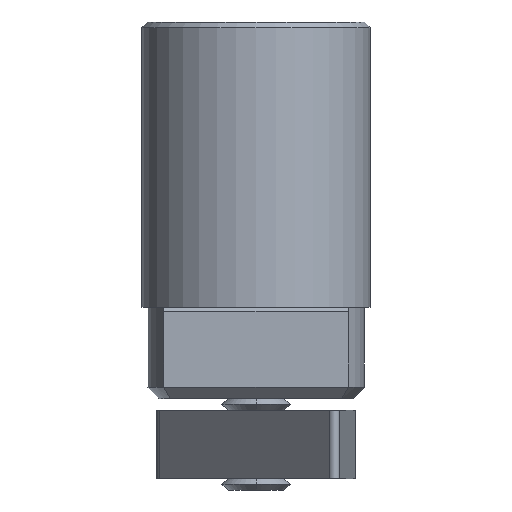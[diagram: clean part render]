
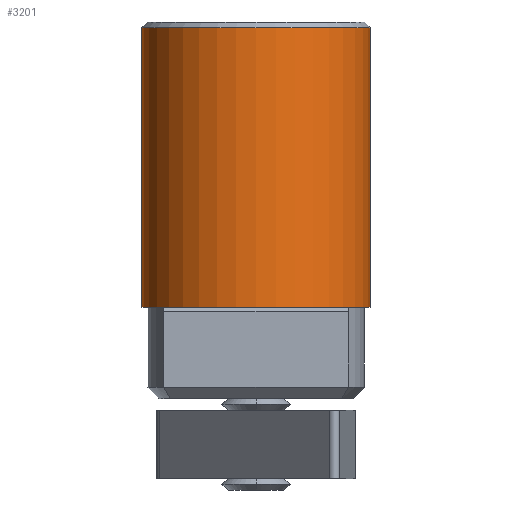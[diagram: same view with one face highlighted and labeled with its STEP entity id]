
A CAD part, front view. The second image highlights one B-rep face of the part: STEP entity #3201.
In plain terms, the highlighted cylindrical face has radius 10 mm (diameter 20 mm), a partial arc.
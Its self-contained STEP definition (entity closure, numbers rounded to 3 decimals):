
#2047 = CARTESIAN_POINT ( 'NONE',  ( 10., 0., 24.5 ) ) ;
#2057 = CARTESIAN_POINT ( 'NONE',  ( -10., 0., 24.5 ) ) ;
#2243 = DIRECTION ( 'NONE',  ( 1., 0., 0. ) ) ;
#2244 = DIRECTION ( 'NONE',  ( 0., 0., 1. ) ) ;
#2245 = CARTESIAN_POINT ( 'NONE',  ( 0., 0., 0. ) ) ;
#2246 = AXIS2_PLACEMENT_3D ( 'NONE', #2245, #2244, #2243 ) ;
#2247 = CIRCLE ( 'NONE', #2246, 10. ) ;
#2253 = CARTESIAN_POINT ( 'NONE',  ( 10., 0., 0. ) ) ;
#2254 = DIRECTION ( 'NONE',  ( 0., 0., -1. ) ) ;
#2255 = VECTOR ( 'NONE', #2254, 1000. ) ;
#2256 = CARTESIAN_POINT ( 'NONE',  ( 10., 0., 25. ) ) ;
#2257 = LINE ( 'NONE', #2256, #2255 ) ;
#2258 = DIRECTION ( 'NONE',  ( 0., 0., -1. ) ) ;
#2259 = VECTOR ( 'NONE', #2258, 1000. ) ;
#2260 = CARTESIAN_POINT ( 'NONE',  ( -10., 0., 25. ) ) ;
#2261 = LINE ( 'NONE', #2260, #2259 ) ;
#2265 = CARTESIAN_POINT ( 'NONE',  ( -10., 0., 0. ) ) ;
#2306 = CYLINDRICAL_SURFACE ( 'NONE', #2308, 10. ) ;
#2307 = CARTESIAN_POINT ( 'NONE',  ( 0., 0., 25. ) ) ;
#2308 = AXIS2_PLACEMENT_3D ( 'NONE', #2307, #2365, #2364 ) ;
#2309 = FACE_OUTER_BOUND ( 'NONE', #3192, .T. ) ;
#2310 = DIRECTION ( 'NONE',  ( 1., 0., 0. ) ) ;
#2311 = DIRECTION ( 'NONE',  ( 0., 0., -1. ) ) ;
#2312 = CARTESIAN_POINT ( 'NONE',  ( 0., 0., 24.5 ) ) ;
#2313 = AXIS2_PLACEMENT_3D ( 'NONE', #2312, #2311, #2310 ) ;
#2314 = CIRCLE ( 'NONE', #2313, 10. ) ;
#2364 = DIRECTION ( 'NONE',  ( -1., 0., 0. ) ) ;
#2365 = DIRECTION ( 'NONE',  ( 0., 0., -1. ) ) ;
#3070 = VERTEX_POINT ( 'NONE', #2057 ) ;
#3075 = VERTEX_POINT ( 'NONE', #2047 ) ;
#3152 = VERTEX_POINT ( 'NONE', #2265 ) ;
#3155 = EDGE_CURVE ( 'NONE', #3070, #3152, #2261, .T. ) ;
#3157 = EDGE_CURVE ( 'NONE', #3075, #3158, #2257, .T. ) ;
#3158 = VERTEX_POINT ( 'NONE', #2253 ) ;
#3165 = EDGE_CURVE ( 'NONE', #3152, #3158, #2247, .T. ) ;
#3191 = ORIENTED_EDGE ( 'NONE', *, *, #3200, .T. ) ;
#3192 = EDGE_LOOP ( 'NONE', ( #3198, #3191, #3197, #3196 ) ) ;
#3196 = ORIENTED_EDGE ( 'NONE', *, *, #3165, .T. ) ;
#3197 = ORIENTED_EDGE ( 'NONE', *, *, #3155, .T. ) ;
#3198 = ORIENTED_EDGE ( 'NONE', *, *, #3157, .F. ) ;
#3200 = EDGE_CURVE ( 'NONE', #3075, #3070, #2314, .T. ) ;
#3201 = ADVANCED_FACE ( 'NONE', ( #2309 ), #2306, .T. ) ;
